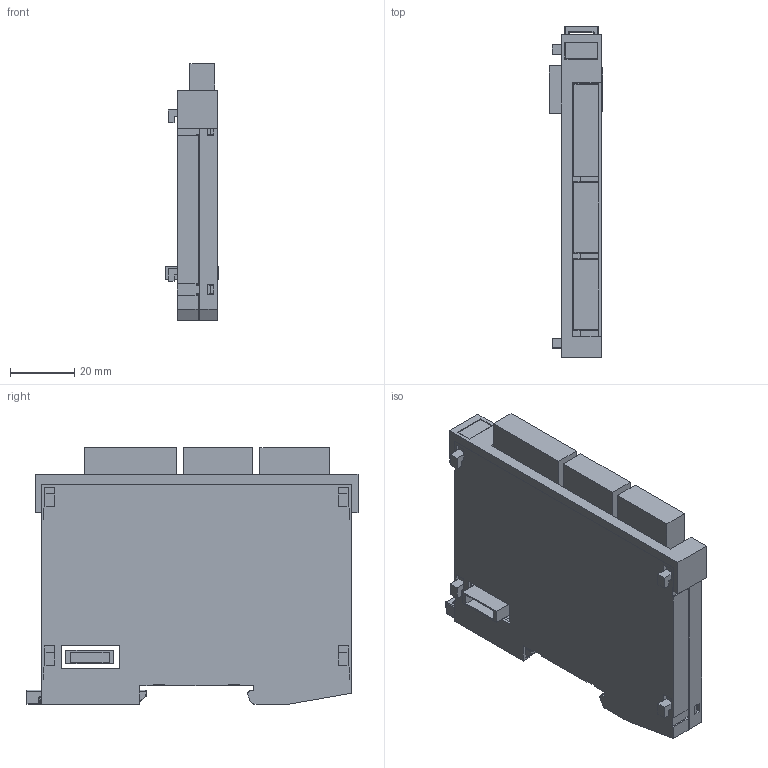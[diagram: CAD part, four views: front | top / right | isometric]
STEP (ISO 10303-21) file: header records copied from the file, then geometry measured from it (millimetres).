
FILE_DESCRIPTION (( 'STEP AP214' ), '1' );
FILE_NAME ('ST011.STEP', '2016-01-21T09:15:34', ( 'SIGMATEK GmbH & Co KG' ), ( 'SIGMATEK GmbH & Co KG' ), 'SwSTEP 2.0', 'SolidWorks 2015', '' );
FILE_SCHEMA (( 'AUTOMOTIVE_DESIGN' ));
Length unit declared in the file: millimetre
Products named in the file (13): LP_ST011; Dummy_4110262114_6pol_1937538; Dummy_4110262186 6pol Stecker 1.5-6-st-3.5_1707307; Dummy_4110260022 8pol.Federkraftstecker 1reih. 1952322; Dummy_______________8pol Buchse; Dummy_4080225345 Erni Buchse; Dummy_4080225346 Erni Stift; S-Dias Rasthaken 20130313; Schieber_f Suport; S-Dias Schale rechts_f Suport; S-Dias Schale links_f Suport; 4110251342_MF 10-5 MC CABUR_1854510000; ST011
Assembly tree (14 placements, depth 3):
  ST011
    4110251342_MF 10-5 MC CABUR_1854510000
    S-Dias Schale links_f Suport
    S-Dias Schale rechts_f Suport
    Schieber_f Suport
    S-Dias Rasthaken 20130313
    LP_ST011
      Dummy_4080225346 Erni Stift
      Dummy_4080225345 Erni Buchse
      Dummy_______________8pol Buchse
      Dummy_4110260022 8pol.Federkraftstecker 1reih. 1952322
      Dummy_4110262186 6pol Stecker 1.5-6-st-3.5_1707307  x2
      Dummy_4110262114_6pol_1937538  x2
Bounding box: 16.8 x 103.61 x 80.17 mm (x, y, z)
Volume: 34509.6 mm3; surface area: 45646.8 mm2
Topology: 13 solids, 13 shells, 789 faces, 2293 edges, 1518 vertices
Faces by surface type: plane 550, cylinder 128, bspline 55, cone 28, torus 15, sphere 13
Entity records: 30485 total; most frequent: CARTESIAN_POINT 7239, ORIENTED_EDGE 4484, DIRECTION 3499, EDGE_CURVE 2242, LINE 1593, VECTOR 1593, VERTEX_POINT 1490, AXIS2_PLACEMENT_3D 953
